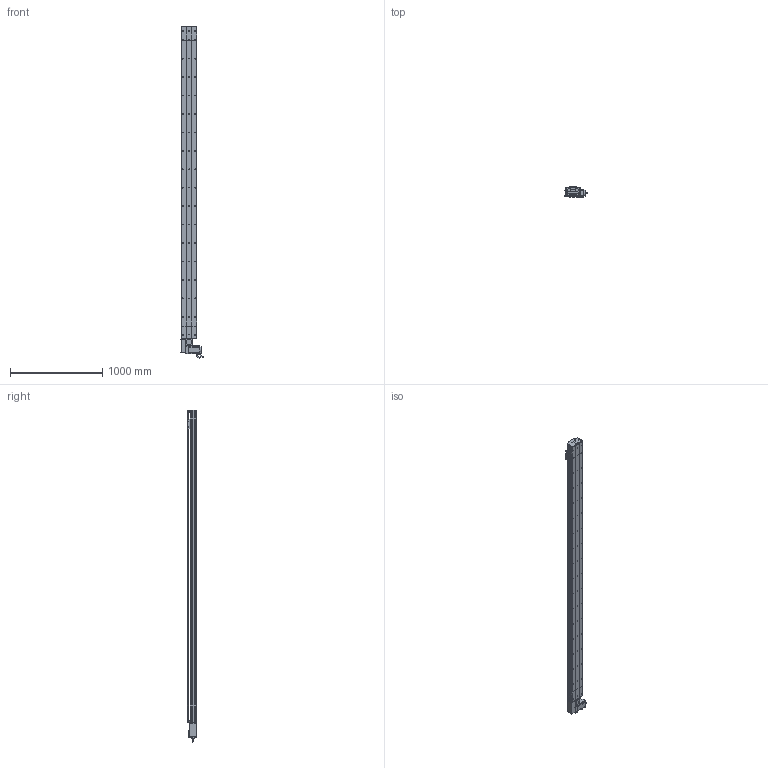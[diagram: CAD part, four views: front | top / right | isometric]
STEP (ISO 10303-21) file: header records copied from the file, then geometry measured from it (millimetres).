
FILE_DESCRIPTION (( 'STEP AP214' ), '1' );
FILE_NAME ('D17 TBN RH S3100.STEP', '2010-06-30T13:32:13', ( 'Conseil Régional Haute-Normandie' ), ( 'Conseil Régional Haute-Normandie' ), 'SwSTEP 2.0', 'SolidWorks 2010', '' );
FILE_SCHEMA (( 'AUTOMOTIVE_DESIGN' ));
Length unit declared in the file: millimetre
Products named in the file (40): corp tail D17B+100_Default; Rail D17B; tete d''axe poulie D17B; Tail D17B+100_Default; Renvoi RH_Default; cache arbre D17_Default; vis M5 L70_Default; Conecteur_Default; Conecteur2_Default; Vis M5 L16-2_Default; vis M5 L16_Default; Plaque racord D17_Default; corps 90BLDC125A-640; codeur 90BLDC125-640; Chariot D17 TBN; chariot D17 TBN; guide D17; vis M5 L25_Default; vis M5 L12_Default; vis M5 L8 90°_Default; couvercle D17B_Default; Couroie tail D17B_Default; poulie tail_Default; plaque de  bout tail D17B_Default; D17 TBN RH S3100; corp D17B 3100_Default; Couroie+ rail D17 Course 3100 ; course 3100 D17B_Default; corpl head D17 _Default; Head RH D17B_Default; couvercle D17B course L3100_Default; Arbre+rail head D17B; plaque de  bout head D17B RH_Default; couvercle D17B head_Default; poulie head_Default; vis M5 L5_Default; cache D17_Default; avant 90BLDC125A-640; Moteur motionking 90BLDC125A-640; couroie head D17_Default
Assembly tree (66 placements, depth 4):
  D17 TBN RH S3100
    chariot D17 TBN
      guide D17  x2
      Chariot D17 TBN
    course 3100 D17B_Default
      Couroie+ rail D17 Course 3100 
      couvercle D17B course L3100_Default
      corp D17B 3100_Default
    Head RH D17B_Default
      vis M5 L70_Default  x4
      cache arbre D17_Default
      vis M5 L25_Default  x2
      Vis M5 L16-2_Default  x4
      couroie head D17_Default
      vis M5 L16_Default  x2
      vis M5 L12_Default  x8
      vis M5 L5_Default  x4
      Renvoi RH_Default
      Plaque racord D17_Default
      Arbre+rail head D17B
      plaque de  bout head D17B RH_Default
      poulie head_Default
      corpl head D17 _Default
      cache D17_Default  x2
      couvercle D17B head_Default
      Moteur motionking 90BLDC125A-640
        Conecteur_Default
        codeur 90BLDC125-640
        avant 90BLDC125A-640
        corps 90BLDC125A-640
        Conecteur2_Default
    Tail D17B+100_Default
      vis M5 L25_Default  x2
      poulie tail_Default
      vis M5 L12_Default  x4
      vis M5 L8 90°_Default  x2
      Couroie tail D17B_Default
      couvercle D17B_Default
      plaque de  bout tail D17B_Default
      tete d''axe poulie D17B
      Rail D17B
      corp tail D17B+100_Default
Bounding box: 245.2 x 105.65 x 3600.95 mm (x, y, z)
Volume: 19834778.8 mm3; surface area: 5803183 mm2
Topology: 89 solids, 89 shells, 2667 faces, 6887 edges, 4438 vertices
Faces by surface type: plane 1537, cylinder 833, bspline 136, cone 80, torus 77, sphere 4
Entity records: 87117 total; most frequent: CARTESIAN_POINT 25749, ORIENTED_EDGE 10946, DIRECTION 10318, EDGE_CURVE 5473, VERTEX_POINT 3582, LINE 3556, VECTOR 3556, AXIS2_PLACEMENT_3D 3381
